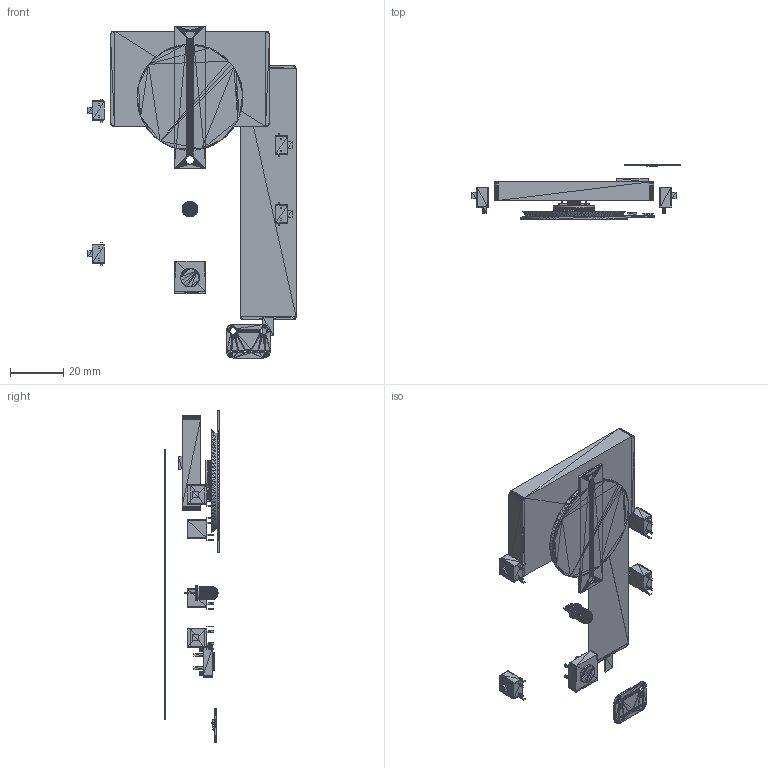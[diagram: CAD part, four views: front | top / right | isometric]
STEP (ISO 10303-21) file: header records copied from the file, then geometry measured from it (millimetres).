
FILE_DESCRIPTION(('Open CASCADE Model'),'2;1');
FILE_NAME('ASTRA_21_2_installed_reference_hardware', '2026-09-04T19:55:25',('Author'),('Open CASCADE'), 'Open CASCADE STEP processor 7.8','build123d','Unknown');
FILE_SCHEMA(('AUTOMOTIVE_DESIGN { 1 0 10303 214 1 1 1 1 }'));
Length unit declared in the file: millimetre
Products named in the file (68): ASTRA_21_2_installed_reference_hardware; REF_sw_B3F-3150_ptt_1; SOLID; REF_sw_B3F-3150_ptt_2; REF_sw_B3F-3150_vol_1; REF_sw_B3F-3150_vol_2; REF_sw_B3F-4000_play; REF_led_WP154A4_partial_faceted(source_not_watertight); REF_battery_adafruit2011_rigid_body_and_tab; REF_speaker_cms40504n_rigid; REF_lte_fxub63_flex_and_feed; REF_mic_adafruit3421_full
Assembly tree (67 placements, depth 3):
  ASTRA_21_2_installed_reference_hardware
    REF_sw_B3F-3150_ptt_1
      SOLID
      SOLID
      SOLID
      SOLID
      SOLID
      SOLID
      SOLID
    REF_sw_B3F-3150_ptt_2
      SOLID
      SOLID
      SOLID
      SOLID
      SOLID
      SOLID
      SOLID
    REF_sw_B3F-3150_vol_1
      SOLID
      SOLID
      SOLID
      SOLID
      SOLID
      SOLID
      SOLID
    REF_sw_B3F-3150_vol_2
      SOLID
      SOLID
      SOLID
      SOLID
      SOLID
      SOLID
      SOLID
    REF_sw_B3F-4000_play
      SOLID
      SOLID
      SOLID
      SOLID
      SOLID
      SOLID
      SOLID
      SOLID
    REF_led_WP154A4_partial_faceted(source_not_watertight)
      SOLID
      SOLID
      SOLID
      SOLID
      SOLID
      SOLID
      SOLID
    REF_battery_adafruit2011_rigid_body_and_tab
      SOLID
      SOLID
    REF_speaker_cms40504n_rigid
      SOLID
      SOLID
      SOLID
      SOLID
    REF_lte_fxub63_flex_and_feed
      SOLID
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Bounding box: 78.5 x 20.5 x 125.25 mm (x, y, z)
Volume: 21561.6 mm3; surface area: 19769.9 mm2
Topology: 55 solids, 57 shells, 11348 faces, 17106 edges, 5850 vertices
Faces by surface type: plane 11348
Entity records: 427826 total; most frequent: CARTESIAN_POINT 85354, DIRECTION 57044, LINE 34212, VECTOR 34212, ORIENTED_EDGE 34044, PCURVE 34044, DEFINITIONAL_REPRESENTATION 34044, EDGE_CURVE 17106
